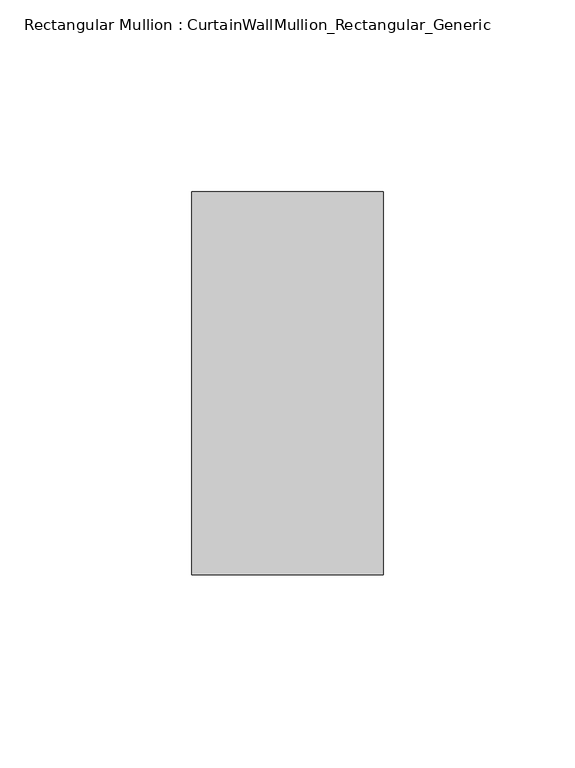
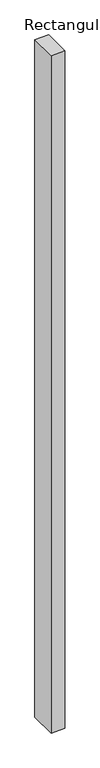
"""IFC4 building model written with IfcOpenShell, lengths in millimetres: member geometry, Rectangular Mullion : CurtainWallMullion_Rectangular_Generic."""

import ifcopenshell
import ifcopenshell.guid

model = None  # the IFC model being written
_history = None  # IfcOwnerHistory: only IFC2X3 demands one
_inside = {}  # id of a spatial element -> (the spatial element, [elements in it])
_under = {}  # id of a project, library or spatial element -> (it, [spatial elements below it])
_declared = {}  # id of a project -> (the project, [libraries it declares])
_typed = {}  # id of a type object -> (the type object, [elements of that type])
_made_of = {}  # id of a material, layer set ... -> (it, [elements and type objects made of it])


def new_model(schema):
    """Start an empty IFC model of exactly this schema.

    Asked for "IFC4X3", IfcOpenShell would pick the latest addendum, in which some entities
    have other attributes; the version numbers below select the first issue.
    IFC2X3 requires an IfcOwnerHistory on every rooted entity: one is made here for all.
    """
    global model, _history
    if schema == "IFC4X3":
        model = ifcopenshell.file(schema_version=(4, 3, 0, 0))
    else:
        model = ifcopenshell.file(schema=schema)
    _inside.clear()
    _under.clear()
    _declared.clear()
    _typed.clear()
    _made_of.clear()
    _history = None
    if model.schema == "IFC2X3":
        org = make("IfcOrganization", Name="unknown")
        user = make(
            "IfcPersonAndOrganization",
            ThePerson=make("IfcPerson", FamilyName="unknown"),
            TheOrganization=org,
        )
        app = make(
            "IfcApplication",
            ApplicationDeveloper=org,
            Version="unknown",
            ApplicationFullName="unknown",
            ApplicationIdentifier="unknown",
        )
        _history = make(
            "IfcOwnerHistory",
            OwningUser=user,
            OwningApplication=app,
            ChangeAction="ADDED",
            CreationDate=0,
        )
    return model


def make(cls, **values):
    """One entity of the class cls with the attributes given. An attribute that is None is left unset."""
    return model.create_entity(
        cls, **{name: value for name, value in values.items() if value is not None}
    )


def rooted(cls, **values):
    """An entity with a GlobalId (a new one), such as an element, a storey or a relation."""
    return make(cls, GlobalId=ifcopenshell.guid.new(), OwnerHistory=_history, **values)


def si_unit(unit_type, name, prefix=None):
    """IfcSIUnit, for example si_unit("LENGTHUNIT", "METRE", prefix="MILLI")."""
    return make("IfcSIUnit", UnitType=unit_type, Prefix=prefix, Name=name)


def assignment(units):
    """IfcUnitAssignment: the units of a project."""
    return None if units is None else make("IfcUnitAssignment", Units=units)


def point(xyz):
    """IfcCartesianPoint."""
    return None if xyz is None else make("IfcCartesianPoint", Coordinates=xyz)


def direction(xyz):
    """IfcDirection."""
    return None if xyz is None else make("IfcDirection", DirectionRatios=xyz)


def frame(location, z_axis=None, x_axis=None):
    """IfcAxis2Placement3D, a coordinate frame: its origin and axes. An axis left out is left unset."""
    return make(
        "IfcAxis2Placement3D",
        Location=point(location),
        Axis=direction(z_axis),
        RefDirection=direction(x_axis),
    )


def origin():
    """The frame at (0, 0, 0) with its axes left unset."""
    return frame((0.0, 0.0, 0.0))


def place(relative_to, where):
    """IfcLocalPlacement: puts the frame where relative to a parent placement (None: the world)."""
    return make(
        "IfcLocalPlacement", PlacementRelTo=relative_to, RelativePlacement=where
    )


def context(
    kind, dimensions, precision=None, world=None, true_north=None, identifier=None
):
    """IfcGeometricRepresentationContext, for example the 3D "Model" context."""
    return make(
        "IfcGeometricRepresentationContext",
        ContextIdentifier=identifier,
        ContextType=kind,
        CoordinateSpaceDimension=dimensions,
        Precision=precision,
        WorldCoordinateSystem=world,
        TrueNorth=true_north,
    )


def project(units=None, contexts=None):
    """IfcProject with its units and contexts."""
    return rooted(
        "IfcProject",
        Name="project",
        RepresentationContexts=contexts,
        UnitsInContext=assignment(units),
    )


def spatial(cls, under=None, at=None, **own):
    """A site, building, storey or space (cls), placed at a placement, below another one or the project."""
    s = rooted(cls, ObjectPlacement=at, **own)
    if under is not None:
        _under.setdefault(under.id(), (under, []))[1].append(s)
    return s


def polyline(points):
    """IfcPolyline through the points."""
    return make("IfcPolyline", Points=[point(p) for p in points])


def outline(outer, holes=None, kind="AREA"):
    """IfcArbitraryClosedProfileDef: a profile drawn as a closed curve; with holes, ...WithVoids."""
    if holes is None:
        return make("IfcArbitraryClosedProfileDef", ProfileType=kind, OuterCurve=outer)
    return make(
        "IfcArbitraryProfileDefWithVoids",
        ProfileType=kind,
        OuterCurve=outer,
        InnerCurves=holes,
    )


def extrude(swept, where, along, depth):
    """IfcExtrudedAreaSolid: the profile swept, set in the frame where, extruded along a direction by depth."""
    return make(
        "IfcExtrudedAreaSolid",
        SweptArea=swept,
        Position=where,
        ExtrudedDirection=direction(along),
        Depth=depth,
    )


def shape(context_of_items, identifier, shape_type, items):
    """IfcShapeRepresentation: the items that make up one representation, for example the "Body"."""
    return make(
        "IfcShapeRepresentation",
        ContextOfItems=context_of_items,
        RepresentationIdentifier=identifier,
        RepresentationType=shape_type,
        Items=items,
    )


def source(mapping_origin, context_of_items, identifier, shape_type, items):
    """IfcRepresentationMap: a shape defined once, which mapped items show again and again."""
    return make(
        "IfcRepresentationMap",
        MappingOrigin=mapping_origin,
        MappedRepresentation=shape(context_of_items, identifier, shape_type, items),
    )


def transform(
    local_origin,
    x_axis=None,
    y_axis=None,
    z_axis=None,
    scale=None,
    scale2=None,
    scale3=None,
    uniform=True,
):
    """IfcCartesianTransformationOperator3D, or its non-uniform kind. x_axis, y_axis, z_axis: its Axis1, 2, 3."""
    if uniform:
        return make(
            "IfcCartesianTransformationOperator3D",
            Axis1=direction(x_axis),
            Axis2=direction(y_axis),
            LocalOrigin=point(local_origin),
            Scale=scale,
            Axis3=direction(z_axis),
        )
    return make(
        "IfcCartesianTransformationOperator3DnonUniform",
        Axis1=direction(x_axis),
        Axis2=direction(y_axis),
        LocalOrigin=point(local_origin),
        Scale=scale,
        Axis3=direction(z_axis),
        Scale2=scale2,
        Scale3=scale3,
    )


def mapped(mapping_source, mapping_target):
    """IfcMappedItem: shows the shape of a source again, moved by a transform."""
    return make(
        "IfcMappedItem", MappingSource=mapping_source, MappingTarget=mapping_target
    )


def made_of(thing, what):
    """Note that an element or type object is made of a material, layer set ...; save() writes the relation."""
    if what is not None:
        _made_of.setdefault(what.id(), (what, []))[1].append(thing)
    return thing


def element(
    cls,
    number,
    at=None,
    inside=None,
    cuts=None,
    type_object=None,
    material=None,
    context=None,
    identifier="Body",
    shape_type=None,
    held_by="IfcProductDefinitionShape",
    body=None,
    shapes=None,
    **own,
):
    """One element of the class cls, such as IfcWall. Its Tag is "e" and its number.

    at: its placement. inside: the storey or other place that contains it. cuts: it is an
    opening in that element (IfcRelVoidsElement). A single representation is given by context,
    identifier, shape_type and body (its items); several are given by shapes. held_by: the class
    of the entity that holds the representations. save() writes the other relations.
    """
    e = rooted(cls, Tag="e%d" % number, ObjectPlacement=at, **own)
    if body is not None:
        shapes = [shape(context, identifier, shape_type, body)]
    if shapes is not None:
        e.Representation = make(held_by, Representations=shapes)
    if inside is not None:
        _inside.setdefault(inside.id(), (inside, []))[1].append(e)
    if cuts is not None:
        rooted(
            "IfcRelVoidsElement", RelatingBuildingElement=cuts, RelatedOpeningElement=e
        )
    if type_object is not None:
        _typed.setdefault(type_object.id(), (type_object, []))[1].append(e)
    return made_of(e, material)


def aggregate(whole, parts):
    """IfcRelAggregates: a whole, such as a stair, and the parts it consists of."""
    return rooted("IfcRelAggregates", RelatingObject=whole, RelatedObjects=parts)


def save(model, path):
    """Write the relations noted so far, then the file.

    IfcRelAggregates (storeys below a building ...), IfcRelContainedInSpatialStructure (elements
    in a storey), IfcRelDefinesByType, IfcRelAssociatesMaterial and IfcRelDeclares: one each for
    every whole, place, type object, material and project.
    """
    for whole, parts in _under.values():
        aggregate(whole, parts)
    for where, things in _inside.values():
        rooted(
            "IfcRelContainedInSpatialStructure",
            RelatedElements=things,
            RelatingStructure=where,
        )
    for kind, things in _typed.values():
        rooted("IfcRelDefinesByType", RelatedObjects=things, RelatingType=kind)
    for what, things in _made_of.values():
        rooted("IfcRelAssociatesMaterial", RelatedObjects=things, RelatingMaterial=what)
    for by, libraries in _declared.values():
        rooted("IfcRelDeclares", RelatingContext=by, RelatedDefinitions=libraries)
    model.write(path)


def rectangular_mullion_curtainwallmullion_rectangular_generic_a8301379(model_context):
    return source(origin(), model_context, "Body", "SweptSolid", [
        extrude(outline(polyline([(0.0, 50.0), (0.0, -50.0), (-50.0, -50.0), (-50.0, 50.0), (0.0, 50.0)])), frame((0.0, 0.0, -2568.3333335), z_axis=(0.0, 0.0, 1.0), x_axis=(1.0, 0.0, 0.0)), (0.0, 0.0, 1.0), 2568.3333335),
    ])


if __name__ == "__main__":
    model = new_model("IFC4")
    model_context = context("Model", 3, world=origin())
    ifc_project = project(units=[si_unit("LENGTHUNIT", "METRE", prefix="MILLI")], contexts=[model_context])
    site = spatial("IfcSite", under=ifc_project)
    building = spatial("IfcBuilding", under=site)
    placement = place(None, origin())
    rectangular_mullion_curtainwallmullion_rectangular_generic_shape = rectangular_mullion_curtainwallmullion_rectangular_generic_a8301379(model_context)
    element("IfcMember", 1, ObjectType="Rectangular Mullion : CurtainWallMullion_Rectangular_Generic", at=placement, inside=building, context=model_context, shape_type="MappedRepresentation", body=[
        mapped(rectangular_mullion_curtainwallmullion_rectangular_generic_shape, transform((0.0, 0.0, 0.0), x_axis=(1.0, 0.0, 0.0), y_axis=(0.0, 1.0, 0.0), z_axis=(0.0, 0.0, 1.0))),
    ])
    save(model, "model.ifc")
